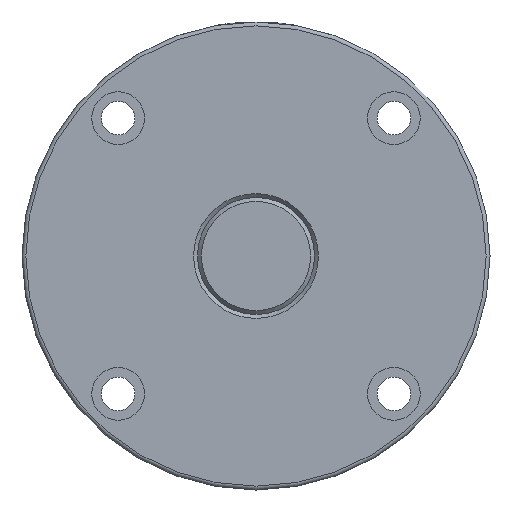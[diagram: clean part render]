
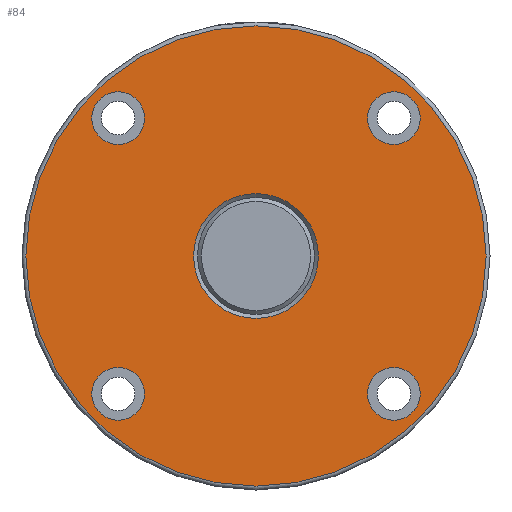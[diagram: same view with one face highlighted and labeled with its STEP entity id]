
A CAD part, left-side view. The second image highlights one B-rep face of the part: STEP entity #84.
In plain terms, the highlighted planar face has unit normal (-1, 0, 0).
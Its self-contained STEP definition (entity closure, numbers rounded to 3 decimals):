
#84 = ADVANCED_FACE( '', ( #138, #139, #140, #141, #142, #143 ), #144, .T. );
#138 = FACE_BOUND( '', #238, .T. );
#139 = FACE_BOUND( '', #239, .T. );
#140 = FACE_BOUND( '', #240, .T. );
#141 = FACE_BOUND( '', #241, .T. );
#142 = FACE_OUTER_BOUND( '', #242, .T. );
#143 = FACE_BOUND( '', #243, .T. );
#144 = PLANE( '', #244 );
#238 = EDGE_LOOP( '', ( #356 ) );
#239 = EDGE_LOOP( '', ( #357 ) );
#240 = EDGE_LOOP( '', ( #358 ) );
#241 = EDGE_LOOP( '', ( #359 ) );
#242 = EDGE_LOOP( '', ( #360 ) );
#243 = EDGE_LOOP( '', ( #361 ) );
#244 = AXIS2_PLACEMENT_3D( '', #362, #363, #364 );
#356 = ORIENTED_EDGE( '', *, *, #488, .T. );
#357 = ORIENTED_EDGE( '', *, *, #489, .T. );
#358 = ORIENTED_EDGE( '', *, *, #490, .T. );
#359 = ORIENTED_EDGE( '', *, *, #478, .T. );
#360 = ORIENTED_EDGE( '', *, *, #491, .T. );
#361 = ORIENTED_EDGE( '', *, *, #492, .F. );
#362 = CARTESIAN_POINT( '', ( 5., 0., 16. ) );
#363 = DIRECTION( '', ( -1., 0., 0. ) );
#364 = DIRECTION( '', ( 0., 0., 1. ) );
#478 = EDGE_CURVE( '', #520, #520, #521, .T. );
#488 = EDGE_CURVE( '', #540, #540, #541, .T. );
#489 = EDGE_CURVE( '', #542, #542, #543, .T. );
#490 = EDGE_CURVE( '', #544, #544, #545, .T. );
#491 = EDGE_CURVE( '', #546, #546, #547, .T. );
#492 = EDGE_CURVE( '', #548, #548, #549, .T. );
#520 = VERTEX_POINT( '', #681 );
#521 = CIRCLE( '', #682, 6.75 );
#540 = VERTEX_POINT( '', #701 );
#541 = CIRCLE( '', #702, 6.75 );
#542 = VERTEX_POINT( '', #703 );
#543 = CIRCLE( '', #704, 6.75 );
#544 = VERTEX_POINT( '', #705 );
#545 = CIRCLE( '', #706, 6.75 );
#546 = VERTEX_POINT( '', #707 );
#547 = CIRCLE( '', #708, 59. );
#548 = VERTEX_POINT( '', #709 );
#549 = CIRCLE( '', #710, 16. );
#681 = CARTESIAN_POINT( '', ( 5., -35.355, 42.105 ) );
#682 = AXIS2_PLACEMENT_3D( '', #754, #755, #756 );
#701 = CARTESIAN_POINT( '', ( 5., -35.355, -28.605 ) );
#702 = AXIS2_PLACEMENT_3D( '', #784, #785, #786 );
#703 = CARTESIAN_POINT( '', ( 5., 35.355, -28.605 ) );
#704 = AXIS2_PLACEMENT_3D( '', #787, #788, #789 );
#705 = CARTESIAN_POINT( '', ( 5., 35.355, 42.105 ) );
#706 = AXIS2_PLACEMENT_3D( '', #790, #791, #792 );
#707 = CARTESIAN_POINT( '', ( 5., 0., 59. ) );
#708 = AXIS2_PLACEMENT_3D( '', #793, #794, #795 );
#709 = CARTESIAN_POINT( '', ( 5., 0., 16. ) );
#710 = AXIS2_PLACEMENT_3D( '', #796, #797, #798 );
#754 = CARTESIAN_POINT( '', ( 5., -35.355, 35.355 ) );
#755 = DIRECTION( '', ( 1., 0., 0. ) );
#756 = DIRECTION( '', ( 0., 0., 1. ) );
#784 = CARTESIAN_POINT( '', ( 5., -35.355, -35.355 ) );
#785 = DIRECTION( '', ( 1., 0., 0. ) );
#786 = DIRECTION( '', ( 0., 0., 1. ) );
#787 = CARTESIAN_POINT( '', ( 5., 35.355, -35.355 ) );
#788 = DIRECTION( '', ( 1., 0., 0. ) );
#789 = DIRECTION( '', ( 0., 0., 1. ) );
#790 = CARTESIAN_POINT( '', ( 5., 35.355, 35.355 ) );
#791 = DIRECTION( '', ( 1., 0., 0. ) );
#792 = DIRECTION( '', ( 0., 0., 1. ) );
#793 = CARTESIAN_POINT( '', ( 5., 0., 0. ) );
#794 = DIRECTION( '', ( -1., 0., 0. ) );
#795 = DIRECTION( '', ( 0., 0., 1. ) );
#796 = CARTESIAN_POINT( '', ( 5., 0., 0. ) );
#797 = DIRECTION( '', ( -1., 0., 0. ) );
#798 = DIRECTION( '', ( 0., 0., 1. ) );
